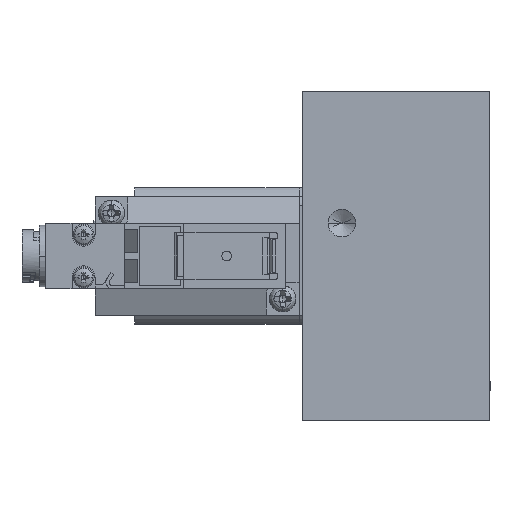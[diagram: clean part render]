
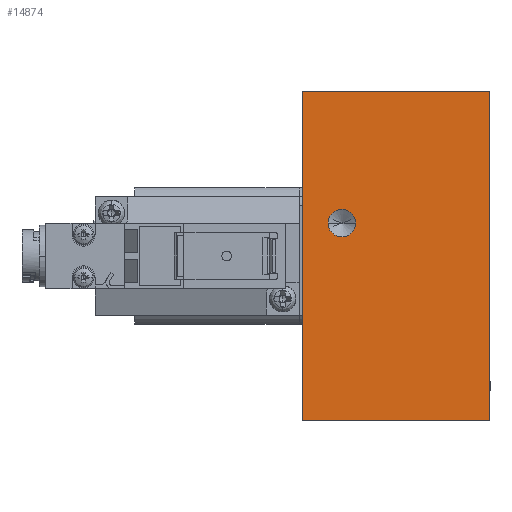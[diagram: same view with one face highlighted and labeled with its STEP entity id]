
A CAD part, left-side view. The second image highlights one B-rep face of the part: STEP entity #14874.
In plain terms, the highlighted planar face has unit normal (-1, 0, 0).
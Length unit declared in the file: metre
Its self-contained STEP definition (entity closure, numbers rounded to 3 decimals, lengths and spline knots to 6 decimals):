
#49 = DIRECTION ( 'NONE',  ( -1., 0., 0. ) ) ;
#162 = EDGE_CURVE ( 'NONE', #6288, #20058, #7298, .T. ) ;
#1347 = LINE ( 'NONE', #15473, #8691 ) ;
#1390 = AXIS2_PLACEMENT_3D ( 'NONE', #17534, #8143, #19117 ) ;
#1701 = CIRCLE ( 'NONE', #1390, 0.0021 ) ;
#2639 = EDGE_CURVE ( 'NONE', #5237, #3375, #17167, .T. ) ;
#2759 = DIRECTION ( 'NONE',  ( 0., 0., -1. ) ) ;
#3375 = VERTEX_POINT ( 'NONE', #9126 ) ;
#4544 = DIRECTION ( 'NONE',  ( 0., 0., -1. ) ) ;
#4968 = CARTESIAN_POINT ( 'NONE',  ( -0.037, 0., 0.025 ) ) ;
#5237 = VERTEX_POINT ( 'NONE', #7705 ) ;
#5606 = ORIENTED_EDGE ( 'NONE', *, *, #17993, .T. ) ;
#5866 = VERTEX_POINT ( 'NONE', #17927 ) ;
#6288 = VERTEX_POINT ( 'NONE', #14885 ) ;
#7298 = LINE ( 'NONE', #4968, #11482 ) ;
#7378 = LINE ( 'NONE', #7555, #15731 ) ;
#7547 = CARTESIAN_POINT ( 'NONE',  ( -0.037, -0.01425, 0.025 ) ) ;
#7555 = CARTESIAN_POINT ( 'NONE',  ( -0.037, -0.01425, 0. ) ) ;
#7705 = CARTESIAN_POINT ( 'NONE',  ( -0.037, -0.01425, -0.025 ) ) ;
#8063 = EDGE_LOOP ( 'NONE', ( #17315, #17425, #5606, #20104 ) ) ;
#8097 = DIRECTION ( 'NONE',  ( 0., -1., 0. ) ) ;
#8143 = DIRECTION ( 'NONE',  ( -1., 0., 0. ) ) ;
#8691 = VECTOR ( 'NONE', #4544, 1. ) ;
#8829 = AXIS2_PLACEMENT_3D ( 'NONE', #9437, #49, #11035 ) ;
#8968 = PLANE ( 'NONE',  #19727 ) ;
#9126 = CARTESIAN_POINT ( 'NONE',  ( -0.037, 0.01425, -0.025 ) ) ;
#9261 = FACE_OUTER_BOUND ( 'NONE', #8063, .T. ) ;
#9301 = EDGE_LOOP ( 'NONE', ( #17353, #19389 ) ) ;
#9437 = CARTESIAN_POINT ( 'NONE',  ( -0.037, 0.00825, 0.005 ) ) ;
#9531 = DIRECTION ( 'NONE',  ( 0., 1., 0. ) ) ;
#10122 = EDGE_CURVE ( 'NONE', #5237, #20058, #7378, .T. ) ;
#10550 = CARTESIAN_POINT ( 'NONE',  ( -0.037, -0.01425, 0.025 ) ) ;
#11035 = DIRECTION ( 'NONE',  ( 0., -1., 0. ) ) ;
#11482 = VECTOR ( 'NONE', #8097, 1. ) ;
#12147 = DIRECTION ( 'NONE',  ( 1., 0., 0. ) ) ;
#12306 = VERTEX_POINT ( 'NONE', #13069 ) ;
#12709 = CARTESIAN_POINT ( 'NONE',  ( -0.037, 0., -0.025 ) ) ;
#12974 = FACE_BOUND ( 'NONE', #9301, .T. ) ;
#13021 = VECTOR ( 'NONE', #9531, 1. ) ;
#13069 = CARTESIAN_POINT ( 'NONE',  ( -0.037, 0.00615, 0.005 ) ) ;
#14874 = ADVANCED_FACE ( 'NONE', ( #12974, #9261 ), #8968, .F. ) ;
#14885 = CARTESIAN_POINT ( 'NONE',  ( -0.037, 0.01425, 0.025 ) ) ;
#15082 = EDGE_CURVE ( 'NONE', #5866, #12306, #18125, .T. ) ;
#15473 = CARTESIAN_POINT ( 'NONE',  ( -0.037, 0.01425, 0. ) ) ;
#15731 = VECTOR ( 'NONE', #16949, 1. ) ;
#16949 = DIRECTION ( 'NONE',  ( 0., 0., 1. ) ) ;
#17167 = LINE ( 'NONE', #12709, #13021 ) ;
#17315 = ORIENTED_EDGE ( 'NONE', *, *, #10122, .T. ) ;
#17353 = ORIENTED_EDGE ( 'NONE', *, *, #18219, .F. ) ;
#17425 = ORIENTED_EDGE ( 'NONE', *, *, #162, .F. ) ;
#17534 = CARTESIAN_POINT ( 'NONE',  ( -0.037, 0.00825, 0.005 ) ) ;
#17927 = CARTESIAN_POINT ( 'NONE',  ( -0.037, 0.01035, 0.005 ) ) ;
#17993 = EDGE_CURVE ( 'NONE', #6288, #3375, #1347, .T. ) ;
#18125 = CIRCLE ( 'NONE', #8829, 0.0021 ) ;
#18219 = EDGE_CURVE ( 'NONE', #12306, #5866, #1701, .T. ) ;
#19117 = DIRECTION ( 'NONE',  ( 0., -1., 0. ) ) ;
#19389 = ORIENTED_EDGE ( 'NONE', *, *, #15082, .F. ) ;
#19727 = AXIS2_PLACEMENT_3D ( 'NONE', #10550, #12147, #2759 ) ;
#20058 = VERTEX_POINT ( 'NONE', #7547 ) ;
#20104 = ORIENTED_EDGE ( 'NONE', *, *, #2639, .F. ) ;
